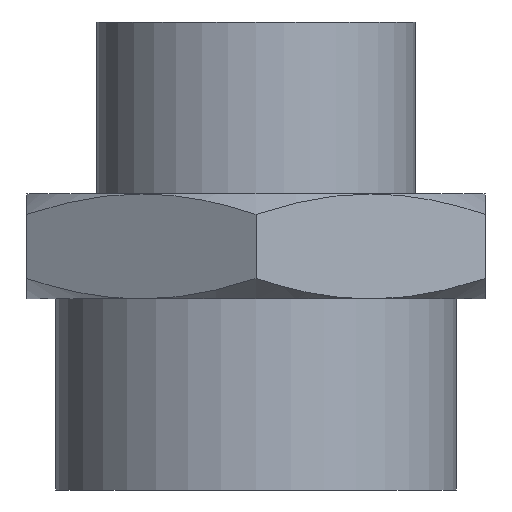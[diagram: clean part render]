
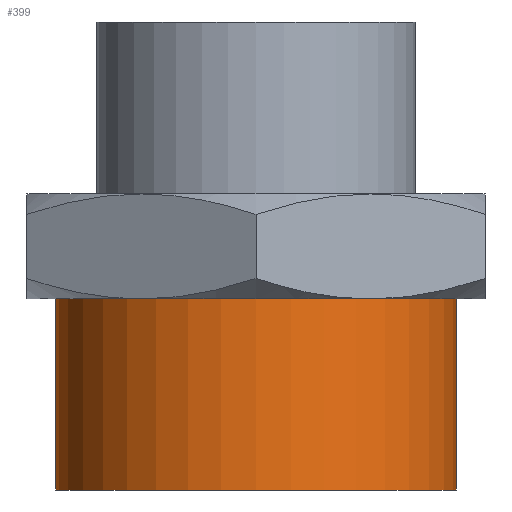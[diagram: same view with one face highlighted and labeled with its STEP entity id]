
A CAD part, front view. The second image highlights one B-rep face of the part: STEP entity #399.
In plain terms, the highlighted cylindrical face has radius 10.477 mm (diameter 20.955 mm), a full revolution.
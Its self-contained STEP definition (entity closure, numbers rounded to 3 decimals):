
#72=FACE_OUTER_BOUND('',#98,.T.);
#98=EDGE_LOOP('',(#281,#282,#283,#284,#285,#286));
#119=LINE('',#667,#128);
#128=VECTOR('',#527,10.478);
#145=CIRCLE('',#453,10.478);
#146=CIRCLE('',#454,10.478);
#147=CIRCLE('',#456,10.478);
#148=CIRCLE('',#457,10.478);
#174=VERTEX_POINT('',#661);
#175=VERTEX_POINT('',#662);
#176=VERTEX_POINT('',#666);
#177=VERTEX_POINT('',#668);
#216=EDGE_CURVE('',#174,#175,#145,.T.);
#217=EDGE_CURVE('',#175,#174,#146,.T.);
#218=EDGE_CURVE('',#175,#176,#119,.T.);
#219=EDGE_CURVE('',#177,#176,#147,.T.);
#220=EDGE_CURVE('',#176,#177,#148,.T.);
#281=ORIENTED_EDGE('',*,*,#216,.T.);
#282=ORIENTED_EDGE('',*,*,#218,.T.);
#283=ORIENTED_EDGE('',*,*,#219,.F.);
#284=ORIENTED_EDGE('',*,*,#220,.F.);
#285=ORIENTED_EDGE('',*,*,#218,.F.);
#286=ORIENTED_EDGE('',*,*,#217,.T.);
#363=CYLINDRICAL_SURFACE('',#455,10.478);
#399=ADVANCED_FACE('',(#72),#363,.T.);
#453=AXIS2_PLACEMENT_3D('',#663,#521,#522);
#454=AXIS2_PLACEMENT_3D('',#664,#523,#524);
#455=AXIS2_PLACEMENT_3D('',#665,#525,#526);
#456=AXIS2_PLACEMENT_3D('',#669,#528,#529);
#457=AXIS2_PLACEMENT_3D('',#670,#530,#531);
#521=DIRECTION('center_axis',(0.,0.,-1.));
#522=DIRECTION('ref_axis',(1.,0.,0.));
#523=DIRECTION('center_axis',(0.,0.,-1.));
#524=DIRECTION('ref_axis',(1.,0.,0.));
#525=DIRECTION('center_axis',(0.,0.,-1.));
#526=DIRECTION('ref_axis',(0.,-1.,0.));
#527=DIRECTION('',(0.,0.,-1.));
#528=DIRECTION('center_axis',(0.,0.,-1.));
#529=DIRECTION('ref_axis',(0.,-1.,0.));
#530=DIRECTION('center_axis',(0.,0.,-1.));
#531=DIRECTION('ref_axis',(0.,-1.,0.));
#661=CARTESIAN_POINT('',(0.,-10.478,10.));
#662=CARTESIAN_POINT('',(0.,10.478,10.));
#663=CARTESIAN_POINT('Origin',(0.,0.,10.));
#664=CARTESIAN_POINT('Origin',(0.,0.,10.));
#665=CARTESIAN_POINT('Origin',(0.,0.,5.));
#666=CARTESIAN_POINT('',(0.,10.478,0.));
#667=CARTESIAN_POINT('',(0.,10.478,5.));
#668=CARTESIAN_POINT('',(0.,-10.478,0.));
#669=CARTESIAN_POINT('Origin',(0.,0.,0.));
#670=CARTESIAN_POINT('Origin',(0.,0.,0.));
